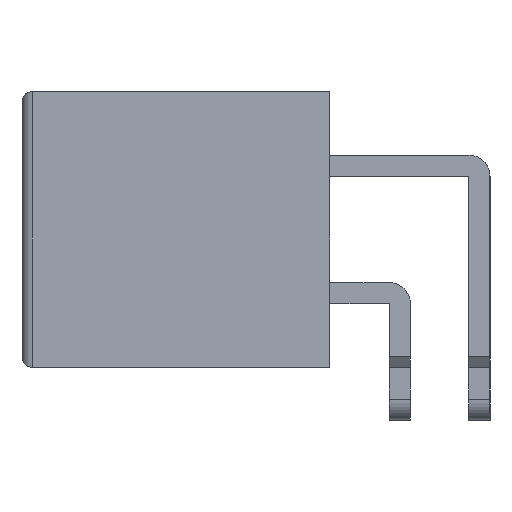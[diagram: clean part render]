
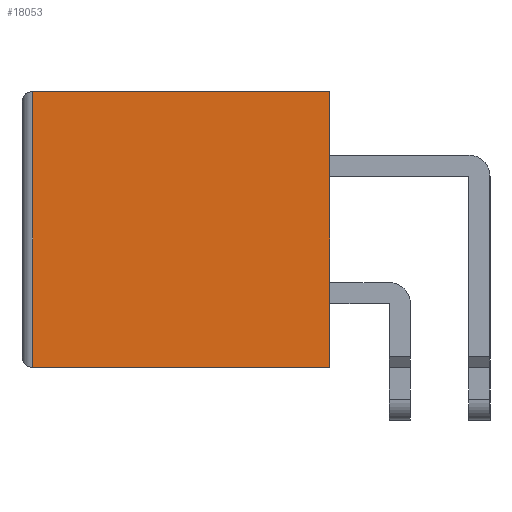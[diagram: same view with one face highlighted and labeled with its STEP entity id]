
A CAD part, left-side view. The second image highlights one B-rep face of the part: STEP entity #18053.
In plain terms, the highlighted planar face has unit normal (-1, 0, 0).
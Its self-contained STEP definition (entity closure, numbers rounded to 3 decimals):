
#2955=VERTEX_POINT('',#29430);
#2956=VERTEX_POINT('',#29434);
#2960=VERTEX_POINT('',#29446);
#2961=VERTEX_POINT('',#29452);
#4750=VECTOR('',#22606,1.);
#4754=VECTOR('',#22617,1.);
#4758=VECTOR('',#22622,1.);
#4759=VECTOR('',#22623,1.);
#6559=LINE('',#29433,#4750);
#6563=LINE('',#29445,#4754);
#6567=LINE('',#29451,#4758);
#6568=LINE('',#29453,#4759);
#9328=EDGE_CURVE('',#2956,#2955,#6559,.T.);
#9334=EDGE_CURVE('',#2960,#2955,#6563,.T.);
#9338=EDGE_CURVE('',#2956,#2961,#6567,.T.);
#9339=EDGE_CURVE('',#2961,#2960,#6568,.T.);
#14711=ORIENTED_EDGE('',*,*,#9328,.F.);
#14712=ORIENTED_EDGE('',*,*,#9338,.T.);
#14713=ORIENTED_EDGE('',*,*,#9339,.T.);
#14714=ORIENTED_EDGE('',*,*,#9334,.T.);
#15962=EDGE_LOOP('',(#14711,#14712,#14713,#14714));
#17040=FACE_BOUND('',#15962,.T.);
#18053=ADVANCED_FACE('',(#17040),#30042,.F.);
#19168=AXIS2_PLACEMENT_3D('',#29450,#22621,$);
#22606=DIRECTION('',(0.,0.,1.));
#22617=DIRECTION('',(0.,1.,0.));
#22621=DIRECTION('',(1.,0.,0.));
#22622=DIRECTION('',(0.,-1.,0.));
#22623=DIRECTION('',(0.,0.,1.));
#29430=CARTESIAN_POINT('',(0.,28.,0.));
#29433=CARTESIAN_POINT('',(0.,28.,-13.));
#29434=CARTESIAN_POINT('',(0.,28.,-26.));
#29445=CARTESIAN_POINT('',(0.,0.,0.));
#29446=CARTESIAN_POINT('',(0.,0.,0.));
#29450=CARTESIAN_POINT('',(0.,14.5,-13.));
#29451=CARTESIAN_POINT('',(0.,29.,-26.));
#29452=CARTESIAN_POINT('',(0.,0.,-26.));
#29453=CARTESIAN_POINT('',(0.,0.,-26.));
#30042=PLANE('',#19168);
